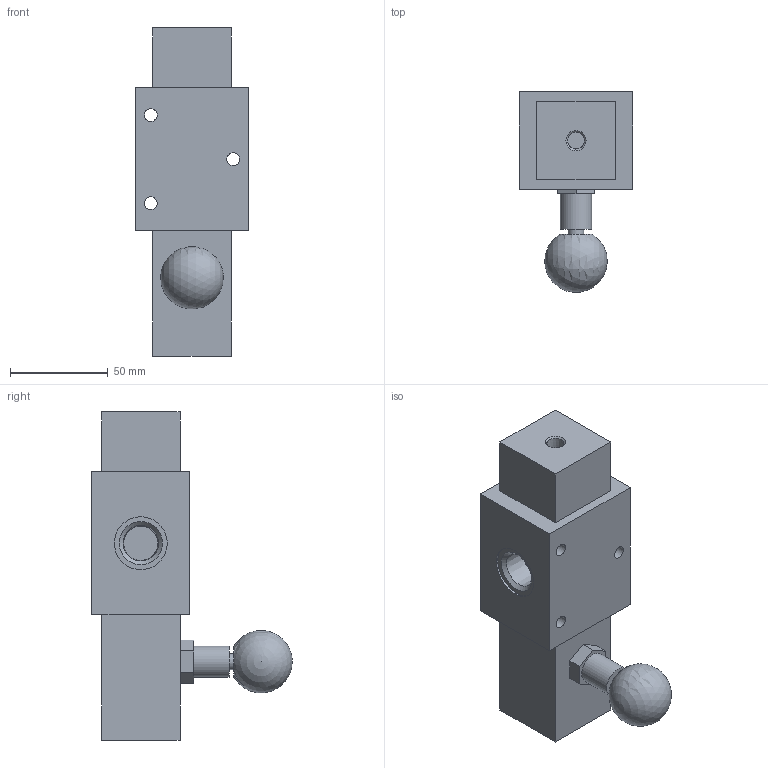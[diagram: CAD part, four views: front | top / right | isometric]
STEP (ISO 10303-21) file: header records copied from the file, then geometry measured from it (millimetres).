
FILE_DESCRIPTION(/* description */ ('V. 3/2 PNEUM.-RIARMO MAN. AUTOBLOCC. PER ALTE TEMP.'),/* implementation_level */ '2;1');
FILE_NAME(/* name */ 'I:\Area Tecnica\Progetti\P118 (OIL&GAS)\DOCUMENTAZIONE\CATALOGO\VALVOLE INOX\LIBRERIA - SS VALV INOX\VALV SS12 NPT\SS1232#####-\SS1232C1114#.stp',/* time_stamp */ '2016-06-14T08:10:02+02:00',/* author */ ('Maniean1'),/* organization */ ('Pneumax S.p.A.'),/* preprocessor_version */ 'ST-DEVELOPER v15.2',/* originating_system */ 'Autodesk Inventor 2014',/* authorisation */ '');
FILE_SCHEMA (('AUTOMOTIVE_DESIGN { 1 0 10303 214 3 1 1 }'));
Length unit declared in the file: millimetre
Products named in the file (1): SS1232C1114#
Bounding box: 58 x 102.24 x 167.5 mm (x, y, z)
Volume: 367077.9 mm3; surface area: 46791.5 mm2
Topology: 1 solids, 1 shells, 52 faces, 118 edges, 80 vertices
Faces by surface type: plane 32, cylinder 11, cone 8, sphere 1
Full cylindrical faces by diameter (mm): 6.5 x3, 8 x1, 16 x1, 17.475 x3, 27 x3
Entity records: 1294 total; most frequent: DIRECTION 224, CARTESIAN_POINT 207, ORIENTED_EDGE 172, EDGE_LOOP 90, EDGE_CURVE 86, AXIS2_PLACEMENT_3D 85, VERTEX_POINT 68, LINE 54
